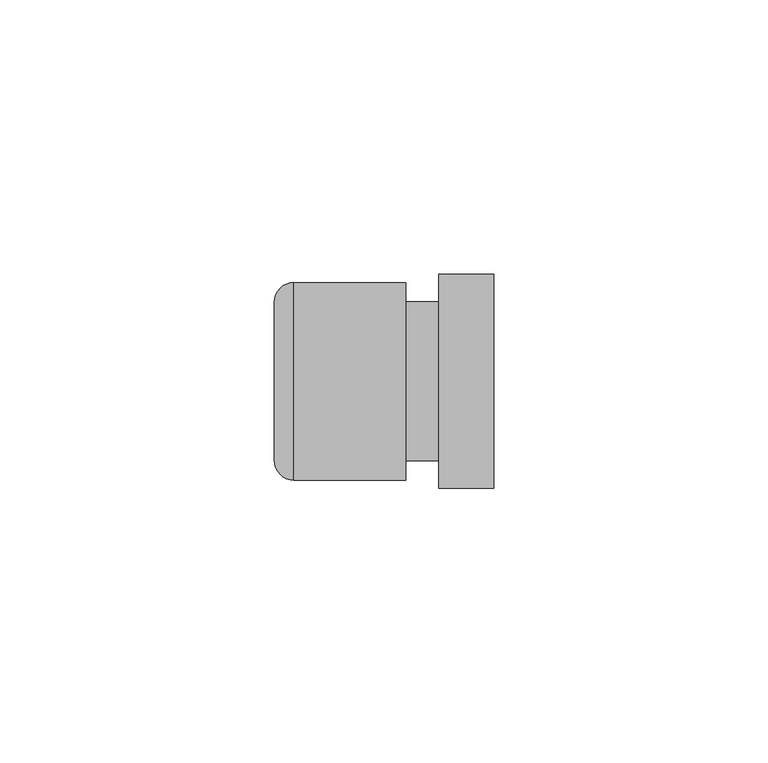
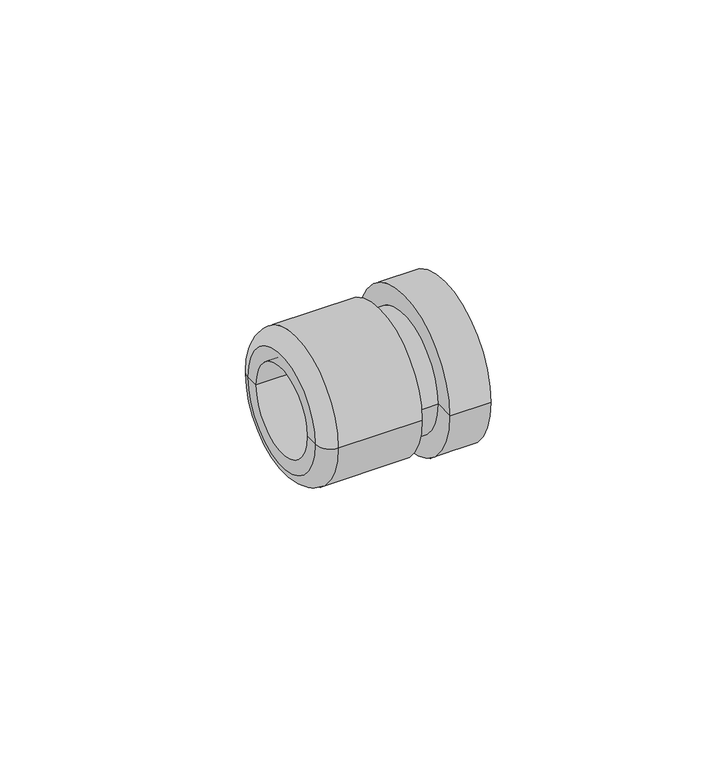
"""IFC4 building model written with IfcOpenShell, lengths in millimetres: cable carrier fitting geometry."""

from ifc_helpers import new_model, si_unit, point, frame, origin, place, context, project, spatial, polyline, circle_curve, ellipse_curve, trimmed, source, transform, mapped, element, save
from ifc_brep_helpers import plane_surface, cylinder_surface, revolved_surface, advanced_brep


def cable_carrier_fitting_eb13e9ea(model_context):
    return source(origin(), model_context, "Body", "AdvancedBrep", [
        advanced_brep(
        [(0.0, -18.0, 0.0), (0.0, 18.0, 0.0), (0.0, 14.5, 0.0), (0.0, -14.5, 0.0), (-20.439955, -18.0, 0.0), (-20.439955, 18.0, 0.0), (-24.0, -14.439955, 0.0), (-24.0, 14.439955, 0.0), (-24.0, -11.0, 0.0), (-24.0, 11.0, 0.0), (16.0, -11.0, 0.0), (16.0, 11.0, 0.0), (16.0, -19.5, 0.0), (16.0, 19.5, 0.0), (6.0, -19.5, 0.0), (6.0, 19.5, 0.0), (6.0, -14.5, 0.0), (6.0, 14.5, 0.0)],
        [
            (0, 1, circle_curve(frame((0.0, 0.0, 0.0), z_axis=(1.0, 0.0, 0.0), x_axis=(0.0, 1.0, 0.0)), 18.0)),
            (1, 2),
            (2, 3, circle_curve(frame((0.0, 0.0, 0.0), z_axis=(-1.0, 0.0, 0.0), x_axis=(0.0, 1.0, 0.0)), 14.5)),
            (3, 0),
            (1, 0, circle_curve(frame((0.0, 0.0, 0.0), z_axis=(1.0, 0.0, 0.0), x_axis=(0.0, 1.0, 0.0)), 18.0)),
            (3, 2, circle_curve(frame((0.0, 0.0, 0.0), z_axis=(-1.0, 0.0, 0.0), x_axis=(0.0, 1.0, 0.0)), 14.5)),
            (4, 5, circle_curve(frame((-20.439955, 0.0, 0.0), z_axis=(1.0, 0.0, 0.0), x_axis=(0.0, 1.0, 0.0)), 18.0)),
            (5, 1),
            (0, 4),
            (5, 4, circle_curve(frame((-20.439955, 0.0, 0.0), z_axis=(1.0, 0.0, 0.0), x_axis=(0.0, 1.0, 0.0)), 18.0)),
            (6, 7, circle_curve(frame((-24.0, 0.0, 0.0), z_axis=(1.0, 0.0, 0.0), x_axis=(0.0, 1.0, 0.0)), 14.439955)),
            (7, 5, circle_curve(frame((-20.439955, 14.439955, 0.0), z_axis=(0.0, 0.0, -1.0), x_axis=(1.0, 0.0, 0.0)), 3.560045)),
            (4, 6, circle_curve(frame((-20.439955, -14.439955, 0.0), z_axis=(0.0, 0.0, -1.0), x_axis=(1.0, 0.0, 0.0)), 3.560045)),
            (7, 6, circle_curve(frame((-24.0, 0.0, 0.0), z_axis=(1.0, 0.0, 0.0), x_axis=(0.0, 1.0, 0.0)), 14.439955)),
            (8, 9, circle_curve(frame((-24.0, 0.0, 0.0), z_axis=(1.0, 0.0, 0.0), x_axis=(0.0, 1.0, 0.0)), 11.0)),
            (9, 7),
            (6, 8),
            (9, 8, circle_curve(frame((-24.0, 0.0, 0.0), z_axis=(1.0, 0.0, 0.0), x_axis=(0.0, 1.0, 0.0)), 11.0)),
            (10, 11, circle_curve(frame((16.0, 0.0, 0.0), z_axis=(1.0, 0.0, 0.0), x_axis=(0.0, 1.0, 0.0)), 11.0)),
            (11, 9),
            (8, 10),
            (11, 10, circle_curve(frame((16.0, 0.0, 0.0), z_axis=(1.0, 0.0, 0.0), x_axis=(0.0, 1.0, 0.0)), 11.0)),
            (12, 13, circle_curve(frame((16.0, 0.0, 0.0), z_axis=(1.0, 0.0, 0.0), x_axis=(0.0, 1.0, 0.0)), 19.5)),
            (13, 11),
            (10, 12),
            (13, 12, circle_curve(frame((16.0, 0.0, 0.0), z_axis=(1.0, 0.0, 0.0), x_axis=(0.0, 1.0, 0.0)), 19.5)),
            (14, 15, circle_curve(frame((6.0, 0.0, 0.0), z_axis=(1.0, 0.0, 0.0), x_axis=(0.0, 1.0, 0.0)), 19.5)),
            (15, 13),
            (12, 14),
            (15, 14, circle_curve(frame((6.0, 0.0, 0.0), z_axis=(1.0, 0.0, 0.0), x_axis=(0.0, 1.0, 0.0)), 19.5)),
            (16, 17, circle_curve(frame((6.0, 0.0, 0.0), z_axis=(1.0, 0.0, 0.0), x_axis=(0.0, 1.0, 0.0)), 14.5)),
            (17, 15),
            (14, 16),
            (17, 16, circle_curve(frame((6.0, 0.0, 0.0), z_axis=(1.0, 0.0, 0.0), x_axis=(0.0, 1.0, 0.0)), 14.5)),
            (2, 17),
            (16, 3),
        ],
        [
            plane_surface(frame((0.0, 0.0, 0.0), z_axis=(1.0, 0.0, 0.0), x_axis=(0.0, 1.0, 0.0))),
            cylinder_surface(frame((1540.4, 0.0, 0.0), z_axis=(-1.0, 0.0, 0.0), x_axis=(0.0, 1.0, 0.0)), 18.0),
            revolved_surface(trimmed(ellipse_curve(frame((-20.439955, 14.439955, 0.0), z_axis=(0.0, 0.0, 1.0), x_axis=(1.0, 0.0, 0.0)), 3.560045, 3.560045), [point((-20.439955, 18.0, 0.0))], [point((-24.0, 14.439955, 0.0))], True, "CARTESIAN"), (1540.4, 0.0, 0.0), (-1.0, 0.0, 0.0)),
            plane_surface(frame((-24.0, 0.0, 0.0), z_axis=(-1.0, 0.0, 0.0), x_axis=(0.0, 1.0, 0.0))),
            revolved_surface(polyline([(-24.0, 11.0, 0.0), (16.0, 11.0, 0.0)]), (1540.4, 0.0, 0.0), (-1.0, 0.0, 0.0)),
            plane_surface(frame((16.0, 0.0, 0.0), z_axis=(1.0, 0.0, 0.0), x_axis=(0.0, 1.0, 0.0))),
            cylinder_surface(frame((1540.4, 0.0, 0.0), z_axis=(-1.0, 0.0, 0.0), x_axis=(0.0, 1.0, 0.0)), 19.5),
            plane_surface(frame((6.0, 0.0, 0.0), z_axis=(-1.0, 0.0, 0.0), x_axis=(0.0, 1.0, 0.0))),
            cylinder_surface(frame((1540.4, 0.0, 0.0), z_axis=(-1.0, 0.0, 0.0), x_axis=(0.0, 1.0, 0.0)), 14.5),
        ],
        [
            (0, [[1, 2, 3, 4]]),
            (0, [[5, -4, 6, -2]]),
            (1, [[7, 8, -1, 9]]),
            (1, [[10, -9, -5, -8]]),
            (2, [[11, 12, -7, 13]]),
            (2, [[14, -13, -10, -12]]),
            (3, [[15, 16, -11, 17]]),
            (3, [[18, -17, -14, -16]]),
            (4, [[19, 20, -15, 21]]),
            (4, [[22, -21, -18, -20]]),
            (5, [[23, 24, -19, 25]]),
            (5, [[26, -25, -22, -24]]),
            (6, [[27, 28, -23, 29]]),
            (6, [[30, -29, -26, -28]]),
            (7, [[31, 32, -27, 33]]),
            (7, [[34, -33, -30, -32]]),
            (8, [[-3, 35, -31, 36]]),
            (8, [[-6, -36, -34, -35]]),
        ],
    ),
    ])


if __name__ == "__main__":
    model = new_model("IFC4")
    model_context = context("Model", 3, world=origin())
    ifc_project = project(units=[si_unit("LENGTHUNIT", "METRE", prefix="MILLI")], contexts=[model_context])
    site = spatial("IfcSite", under=ifc_project)
    building = spatial("IfcBuilding", under=site)
    placement = place(None, origin())
    cable_carrier_fitting_shape = cable_carrier_fitting_eb13e9ea(model_context)
    element("IfcCableCarrierFitting", 1, at=placement, inside=building, context=model_context, shape_type="MappedRepresentation", body=[
        mapped(cable_carrier_fitting_shape, transform((0.0, 0.0, 0.0), x_axis=(1.0, 0.0, 0.0), y_axis=(0.0, 1.0, 0.0), z_axis=(0.0, 0.0, 1.0))),
    ])
    save(model, "model.ifc")
